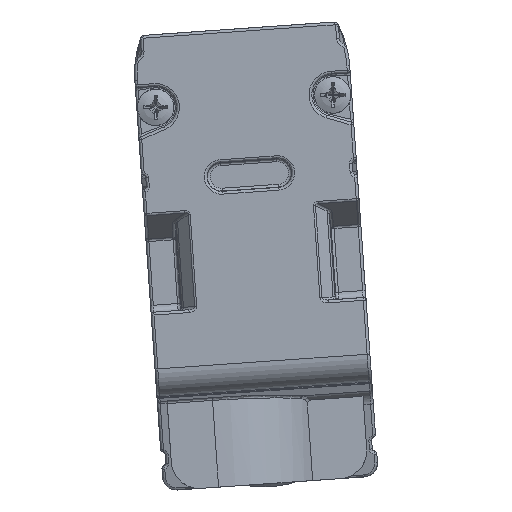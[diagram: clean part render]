
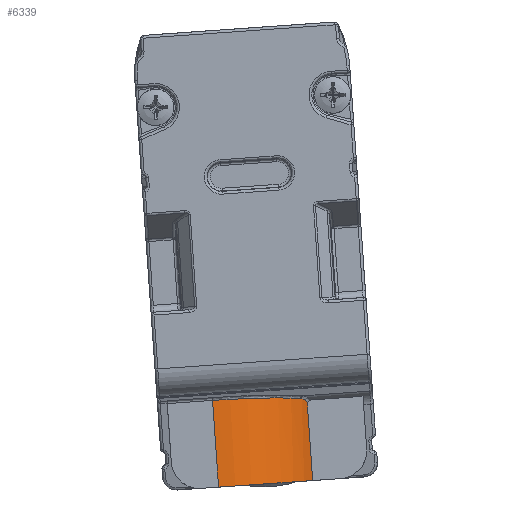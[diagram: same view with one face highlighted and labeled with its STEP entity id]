
A CAD part, front view. The second image highlights one B-rep face of the part: STEP entity #6339.
In plain terms, the highlighted cylindrical face has radius 7.5 mm (diameter 15 mm), a partial arc.
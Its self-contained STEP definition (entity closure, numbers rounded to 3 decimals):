
#193=ELLIPSE('',#22643,7.53,7.5);
#459=B_SPLINE_CURVE_WITH_KNOTS('',3,(#40063,#40064,#40065,#40066,#40067,
#40068,#40069),.UNSPECIFIED.,.F.,.F.,(4,3,4),(0.,0.485,1.),.UNSPECIFIED.);
#1547=FACE_OUTER_BOUND('',#8044,.T.);
#2906=LINE('',#40060,#4471);
#2907=LINE('',#40073,#4472);
#4471=VECTOR('',#26870,1.);
#4472=VECTOR('',#26873,1.);
#6339=ADVANCED_FACE('',(#1547),#7156,.T.);
#7156=CYLINDRICAL_SURFACE('',#22645,7.5);
#8044=EDGE_LOOP('',(#11206,#11207,#11208,#11209,#11210));
#11206=ORIENTED_EDGE('',*,*,#18271,.T.);
#11207=ORIENTED_EDGE('',*,*,#18272,.T.);
#11208=ORIENTED_EDGE('',*,*,#18273,.T.);
#11209=ORIENTED_EDGE('',*,*,#18274,.T.);
#11210=ORIENTED_EDGE('',*,*,#18275,.F.);
#15477=VERTEX_POINT('',#40061);
#15478=VERTEX_POINT('',#40062);
#15479=VERTEX_POINT('',#40070);
#15480=VERTEX_POINT('',#40072);
#15481=VERTEX_POINT('',#40074);
#18271=EDGE_CURVE('',#15477,#15478,#2906,.T.);
#18272=EDGE_CURVE('',#15478,#15479,#459,.T.);
#18273=EDGE_CURVE('',#15479,#15480,#193,.T.);
#18274=EDGE_CURVE('',#15480,#15481,#2907,.T.);
#18275=EDGE_CURVE('',#15477,#15481,#20724,.T.);
#20724=CIRCLE('',#22644,7.5);
#22643=AXIS2_PLACEMENT_3D('',#40071,#26871,#26872);
#22644=AXIS2_PLACEMENT_3D('',#40075,#26874,#26875);
#22645=AXIS2_PLACEMENT_3D('',#40076,#26876,#26877);
#26870=DIRECTION('',(-0.07,0.,0.998));
#26871=DIRECTION('',(0.069,-0.089,-0.994));
#26872=DIRECTION('',(0.006,0.996,-0.089));
#26873=DIRECTION('',(0.07,0.,-0.998));
#26874=DIRECTION('',(0.07,0.,-0.998));
#26875=DIRECTION('',(0.998,0.,0.07));
#26876=DIRECTION('',(0.07,0.,-0.998));
#26877=DIRECTION('',(0.,-1.,0.));
#40060=CARTESIAN_POINT('',(-40.701,-80.597,14.888));
#40061=CARTESIAN_POINT('',(-40.701,-80.597,14.888));
#40062=CARTESIAN_POINT('',(-41.088,-80.597,20.435));
#40063=CARTESIAN_POINT('',(-41.088,-80.597,20.435));
#40064=CARTESIAN_POINT('',(-41.139,-80.686,20.528));
#40065=CARTESIAN_POINT('',(-41.198,-80.793,20.603));
#40066=CARTESIAN_POINT('',(-41.263,-80.905,20.654));
#40067=CARTESIAN_POINT('',(-41.332,-81.024,20.708));
#40068=CARTESIAN_POINT('',(-41.408,-81.152,20.738));
#40069=CARTESIAN_POINT('',(-41.487,-81.278,20.743));
#40070=CARTESIAN_POINT('',(-41.487,-81.278,20.743));
#40071=CARTESIAN_POINT('',(-47.816,-77.318,19.944));
#40072=CARTESIAN_POINT('',(-47.863,-84.818,20.616));
#40073=CARTESIAN_POINT('',(-47.667,-84.818,17.815));
#40074=CARTESIAN_POINT('',(-47.43,-84.818,14.418));
#40075=CARTESIAN_POINT('',(-47.43,-77.318,14.418));
#40076=CARTESIAN_POINT('',(-52.434,-77.318,85.982));
